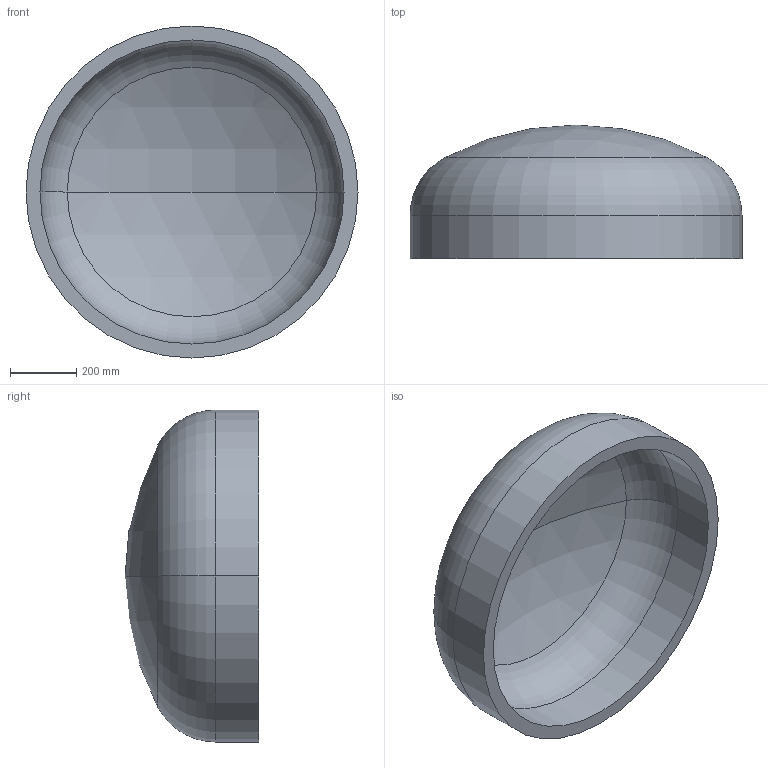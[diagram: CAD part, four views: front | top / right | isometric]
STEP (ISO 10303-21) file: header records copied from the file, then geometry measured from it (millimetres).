
FILE_DESCRIPTION (( 'STEP AP203' ), '1' );
FILE_NAME ('DIN 28013 Korbbogenform_-_Boden DIN 28013 - 1000 x 130 - I - s=42.step', '2016-07-01T08:49:07', ( '' ), ( '' ), 'SwSTEP 2.0', 'SolidWorks 2013', '' );
FILE_SCHEMA (( 'CONFIG_CONTROL_DESIGN' ));
Length unit declared in the file: millimetre
Products named in the file (1): DIN 28013 Korbbogenform_-_Boden DIN 28013 - 1000 x 130 - I - s=42
Bounding box: 1000 x 402.6 x 1000 mm (x, y, z)
Volume: 59760073.6 mm3; surface area: 2975816.8 mm2
Topology: 1 solids, 1 shells, 13 faces, 24 edges, 14 vertices
Faces by surface type: torus 4, cylinder 4, sphere 4, plane 1
Entity records: 407 total; most frequent: DIRECTION 72, CARTESIAN_POINT 52, ORIENTED_EDGE 48, AXIS2_PLACEMENT_3D 34, EDGE_CURVE 24, CIRCLE 20, EDGE_LOOP 14, VERTEX_POINT 14
